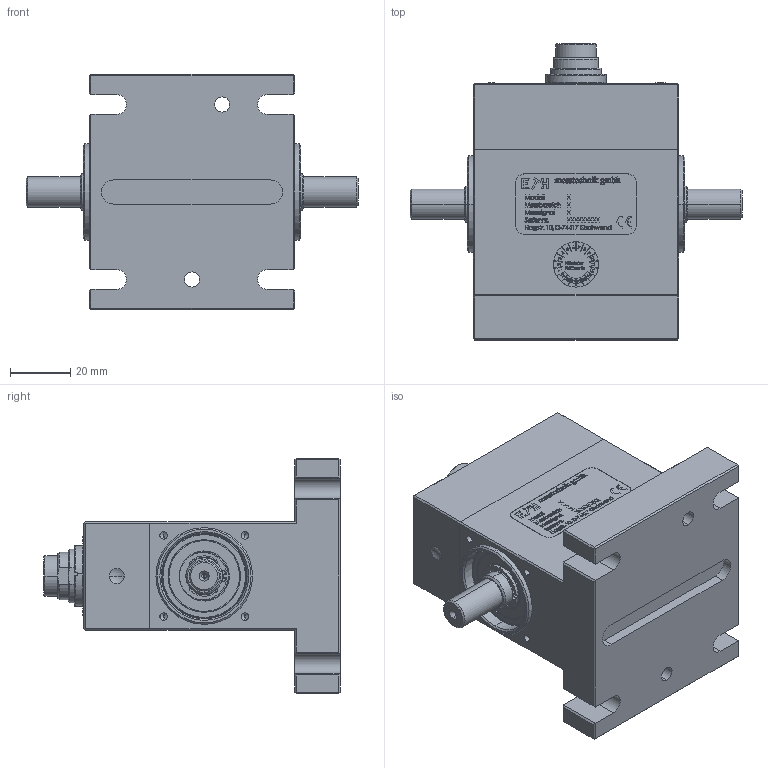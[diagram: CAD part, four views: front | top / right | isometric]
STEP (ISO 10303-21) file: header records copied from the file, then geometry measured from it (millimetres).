
FILE_DESCRIPTION (( 'STEP AP214' ), '1' );
FILE_NAME ('DRVL-Ib-F.STEP', '2020-08-28T11:29:32', ( '' ), ( '' ), 'SwSTEP 2.0', 'SolidWorks 2020', '' );
FILE_SCHEMA (( 'AUTOMOTIVE_DESIGN' ));
Length unit declared in the file: millimetre
Products named in the file (1): DRVL-Ib-F
Bounding box: 110 x 98.1 x 78 mm (x, y, z)
Volume: 180126.8 mm3; surface area: 68252.6 mm2
Topology: 14 solids, 20 shells, 2975 faces, 7762 edges, 5063 vertices
Faces by surface type: plane 1476, bspline 924, cylinder 356, cone 127, torus 82, sphere 10
Entity records: 163459 total; most frequent: CARTESIAN_POINT 63081, ORIENTED_EDGE 15448, DIRECTION 11030, EDGE_CURVE 7724, VERTEX_POINT 5063, VECTOR 4736, LINE 4736, EDGE_LOOP 3309
